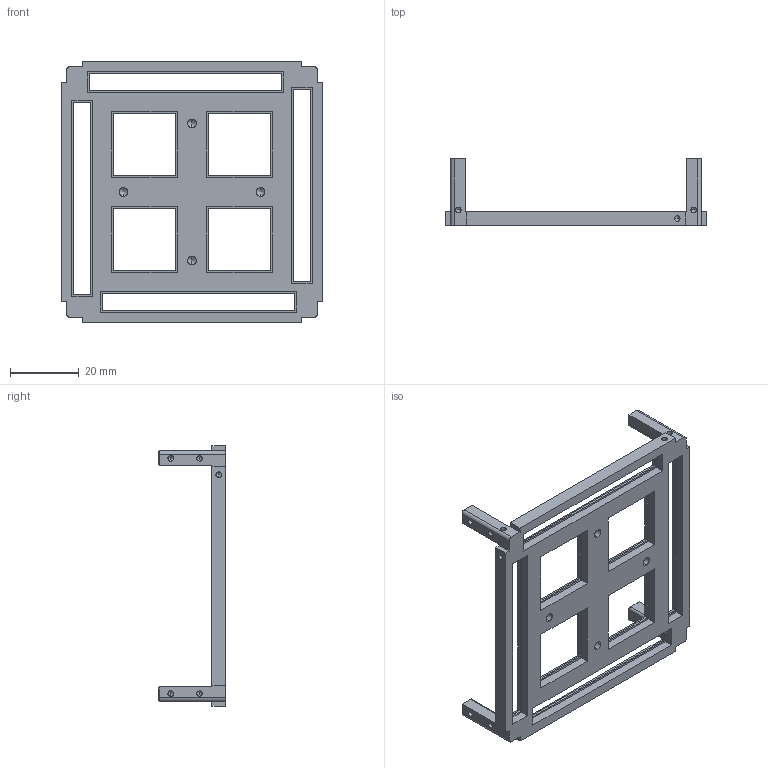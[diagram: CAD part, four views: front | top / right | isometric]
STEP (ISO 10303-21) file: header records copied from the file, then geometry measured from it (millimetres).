
FILE_DESCRIPTION (( 'STEP AP214' ), '1' );
FILE_NAME ('Collimator_Frame.STEP', '2025-01-13T17:24:55', ( '' ), ( '' ), 'SwSTEP 2.0', 'SolidWorks 2022', '' );
FILE_SCHEMA (( 'AUTOMOTIVE_DESIGN' ));
Length unit declared in the file: millimetre
Products named in the file (1): Collimator_Frame
Bounding box: 76 x 19.6 x 76 mm (x, y, z)
Volume: 12624.9 mm3; surface area: 12375.7 mm2
Topology: 1 solids, 1 shells, 276 faces, 692 edges, 414 vertices
Faces by surface type: plane 162, cone 66, cylinder 48
Entity records: 7868 total; most frequent: CARTESIAN_POINT 1343, DIRECTION 1328, ORIENTED_EDGE 1304, EDGE_CURVE 652, LINE 530, VECTOR 530, VERTEX_POINT 414, AXIS2_PLACEMENT_3D 399
